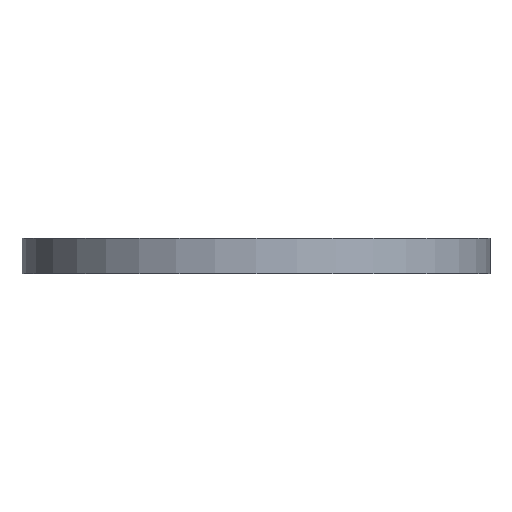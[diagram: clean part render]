
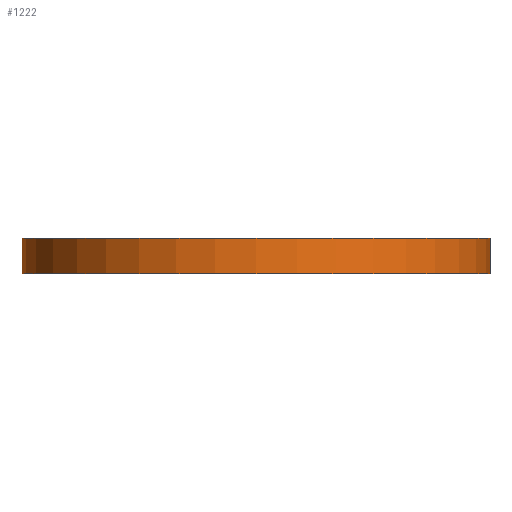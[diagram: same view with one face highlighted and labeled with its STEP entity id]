
A CAD part, front view. The second image highlights one B-rep face of the part: STEP entity #1222.
In plain terms, the highlighted cylindrical face has radius 330 mm (diameter 660 mm), a partial arc.
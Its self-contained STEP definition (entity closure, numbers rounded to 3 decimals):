
#49 = DIRECTION ( 'NONE',  ( 0., 0., 1. ) ) ;
#50 = CARTESIAN_POINT ( 'NONE',  ( 330., 0., -145. ) ) ;
#53 = LINE ( 'NONE', #50, #534 ) ;
#67 = AXIS2_PLACEMENT_3D ( 'NONE', #188, #706, #1182 ) ;
#98 = CARTESIAN_POINT ( 'NONE',  ( 330., 0., -50. ) ) ;
#109 = CARTESIAN_POINT ( 'NONE',  ( -330., 0., -50. ) ) ;
#130 = AXIS2_PLACEMENT_3D ( 'NONE', #276, #275, #274 ) ;
#157 = CYLINDRICAL_SURFACE ( 'NONE', #1187, 330. ) ;
#188 = CARTESIAN_POINT ( 'NONE',  ( 0., 0., 0. ) ) ;
#190 = CIRCLE ( 'NONE', #130, 330. ) ;
#198 = CARTESIAN_POINT ( 'NONE',  ( -330., 0., 0. ) ) ;
#274 = DIRECTION ( 'NONE',  ( 1., 0., 0. ) ) ;
#275 = DIRECTION ( 'NONE',  ( 0., 0., 1. ) ) ;
#276 = CARTESIAN_POINT ( 'NONE',  ( 0., 0., -50. ) ) ;
#345 = LINE ( 'NONE', #782, #692 ) ;
#436 = CARTESIAN_POINT ( 'NONE',  ( 330., 0., 0. ) ) ;
#510 = VERTEX_POINT ( 'NONE', #436 ) ;
#534 = VECTOR ( 'NONE', #49, 1000. ) ;
#547 = EDGE_LOOP ( 'NONE', ( #1179, #1180, #1181, #1185 ) ) ;
#692 = VECTOR ( 'NONE', #1234, 1000. ) ;
#702 = CARTESIAN_POINT ( 'NONE',  ( 0., 0., -145. ) ) ;
#706 = DIRECTION ( 'NONE',  ( 0., 0., 1. ) ) ;
#781 = EDGE_CURVE ( 'NONE', #944, #956, #190, .T. ) ;
#782 = CARTESIAN_POINT ( 'NONE',  ( -330., 0., -145. ) ) ;
#944 = VERTEX_POINT ( 'NONE', #109 ) ;
#956 = VERTEX_POINT ( 'NONE', #98 ) ;
#999 = EDGE_CURVE ( 'NONE', #956, #510, #53, .T. ) ;
#1028 = VERTEX_POINT ( 'NONE', #198 ) ;
#1152 = DIRECTION ( 'NONE',  ( 0., 0., 1. ) ) ;
#1179 = ORIENTED_EDGE ( 'NONE', *, *, #1251, .F. ) ;
#1180 = ORIENTED_EDGE ( 'NONE', *, *, #781, .T. ) ;
#1181 = ORIENTED_EDGE ( 'NONE', *, *, #999, .T. ) ;
#1182 = DIRECTION ( 'NONE',  ( 1., 0., 0. ) ) ;
#1185 = ORIENTED_EDGE ( 'NONE', *, *, #1255, .F. ) ;
#1187 = AXIS2_PLACEMENT_3D ( 'NONE', #702, #1152, #1321 ) ;
#1188 = CIRCLE ( 'NONE', #67, 330. ) ;
#1222 = ADVANCED_FACE ( 'NONE', ( #1223 ), #157, .T. ) ;
#1223 = FACE_OUTER_BOUND ( 'NONE', #547, .T. ) ;
#1234 = DIRECTION ( 'NONE',  ( 0., 0., 1. ) ) ;
#1251 = EDGE_CURVE ( 'NONE', #944, #1028, #345, .T. ) ;
#1255 = EDGE_CURVE ( 'NONE', #1028, #510, #1188, .T. ) ;
#1321 = DIRECTION ( 'NONE',  ( 1., 0., 0. ) ) ;
